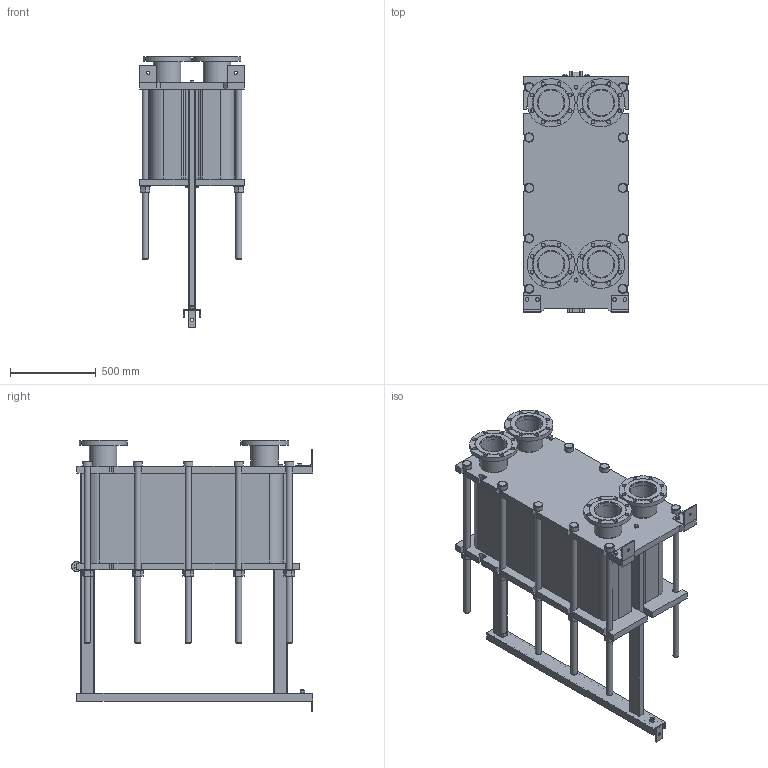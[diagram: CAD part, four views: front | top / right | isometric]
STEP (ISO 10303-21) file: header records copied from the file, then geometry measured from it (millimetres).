
FILE_DESCRIPTION(/* description */ (''),/* implementation_level */ '2;1');
FILE_NAME(/* name */ 'C:\Users\zhuro\Desktop\ENCO\TO\ЭН-041\ЭН-0,5-041-152-1.stp',/* time_stamp */ '2022-06-06T11:01:44+03:00',/* author */ ('zhuro'),/* organization */ (''),/* preprocessor_version */ 'ST-DEVELOPER v18.1',/* originating_system */ 'Autodesk Inventor 2022',/* authorisation */ '');
FILE_SCHEMA (('AUTOMOTIVE_DESIGN { 1 0 10303 214 3 1 1 }'));
Length unit declared in the file: millimetre
Products named in the file (1): ЭН-0,5-041-152-1
Bounding box: 610 x 1406.5 x 1580 mm (x, y, z)
Volume: 379069433.9 mm3; surface area: 10171068.5 mm2
Topology: 52 solids, 52 shells, 711 faces, 1696 edges, 1094 vertices
Faces by surface type: plane 487, cylinder 177, cone 41, torus 6
Full cylindrical faces by diameter (mm): 8 x4, 10 x2, 16 x8, 18 x3, 22 x32, 36 x24, 50 x1, 54 x10, 60 x12, 151 x4, 161 x8, 280 x4
Entity records: 22667 total; most frequent: CARTESIAN_POINT 5230, DIRECTION 3644, ORIENTED_EDGE 3392, EDGE_CURVE 1696, AXIS2_PLACEMENT_3D 1272, LINE 1100, VECTOR 1100, VERTEX_POINT 1094
